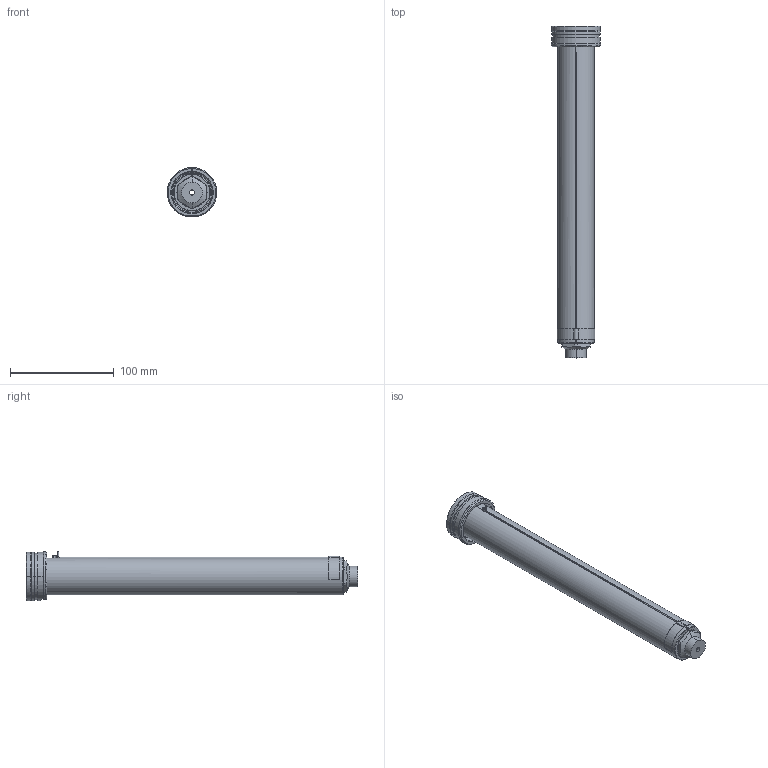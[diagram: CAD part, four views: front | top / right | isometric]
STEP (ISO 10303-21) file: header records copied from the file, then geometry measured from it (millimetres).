
FILE_DESCRIPTION((''),'2;1');
FILE_NAME('EO16_VG-FB_WR_300_SW','2024-02-19T13:47:12',('sundharh'),(''),'CREO PARAMETRIC BY PTC INC, 2023154','CREO PARAMETRIC BY PTC INC, 2023154','');
FILE_SCHEMA(('CONFIG_CONTROL_DESIGN'));
Length unit declared in the file: millimetre
Products named in the file (1): EO16_VG-FB_WR_300_SW
Bounding box: 47.97 x 320 x 48 mm (x, y, z)
Volume: 258363.1 mm3; surface area: 60948.1 mm2
Topology: 1 solids, 1 shells, 197 faces, 474 edges, 286 vertices
Faces by surface type: cylinder 72, plane 47, cone 39, torus 24, bspline 13, sphere 2
Entity records: 6721 total; most frequent: CARTESIAN_POINT 2041, DIRECTION 1054, ORIENTED_EDGE 936, EDGE_CURVE 468, AXIS2_PLACEMENT_3D 442, VERTEX_POINT 286, CIRCLE 258, EDGE_LOOP 214
